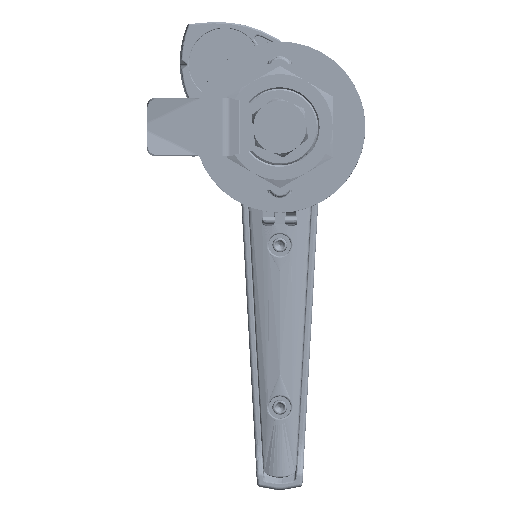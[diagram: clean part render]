
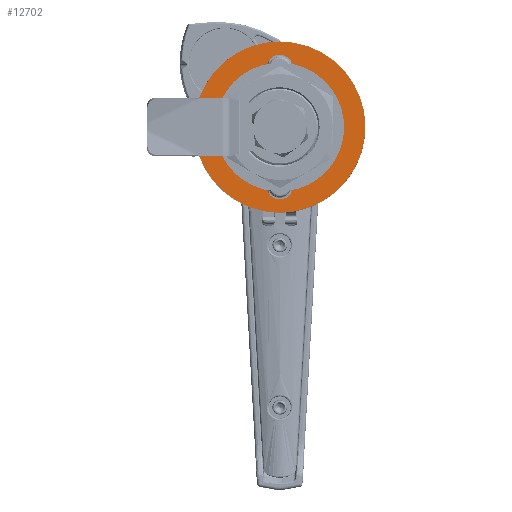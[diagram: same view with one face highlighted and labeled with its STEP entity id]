
A CAD part, front view. The second image highlights one B-rep face of the part: STEP entity #12702.
In plain terms, the highlighted planar face has unit normal (0, -1, 0).
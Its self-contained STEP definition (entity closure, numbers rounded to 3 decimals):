
#3902=FACE_BOUND('',#19801,.T.);
#3903=FACE_BOUND('',#19802,.T.);
#4825=CIRCLE('',#56725,29.);
#4826=CIRCLE('',#56726,4.5);
#4827=CIRCLE('',#56727,13.5);
#4828=CIRCLE('',#56728,4.5);
#4829=CIRCLE('',#56729,13.5);
#12702=ADVANCED_FACE('',(#3902,#3903),#14957,.F.);
#14957=PLANE('',#56730);
#19801=EDGE_LOOP('',(#28213));
#19802=EDGE_LOOP('',(#28214,#28215,#28216,#28217,#28218,#28219,#28220,#28221));
#28213=ORIENTED_EDGE('',*,*,#46429,.F.);
#28214=ORIENTED_EDGE('',*,*,#46430,.T.);
#28215=ORIENTED_EDGE('',*,*,#46431,.T.);
#28216=ORIENTED_EDGE('',*,*,#46432,.T.);
#28217=ORIENTED_EDGE('',*,*,#46433,.T.);
#28218=ORIENTED_EDGE('',*,*,#46434,.T.);
#28219=ORIENTED_EDGE('',*,*,#46435,.T.);
#28220=ORIENTED_EDGE('',*,*,#46436,.T.);
#28221=ORIENTED_EDGE('',*,*,#46437,.T.);
#40156=VERTEX_POINT('',#200730);
#40157=VERTEX_POINT('',#200732);
#40158=VERTEX_POINT('',#200733);
#40159=VERTEX_POINT('',#200735);
#40160=VERTEX_POINT('',#200737);
#40161=VERTEX_POINT('',#200739);
#40162=VERTEX_POINT('',#200741);
#40163=VERTEX_POINT('',#200743);
#40164=VERTEX_POINT('',#200745);
#46429=EDGE_CURVE('',#40156,#40156,#4825,.T.);
#46430=EDGE_CURVE('',#40157,#40158,#4826,.T.);
#46431=EDGE_CURVE('',#40158,#40159,#52287,.T.);
#46432=EDGE_CURVE('',#40159,#40160,#4827,.T.);
#46433=EDGE_CURVE('',#40160,#40161,#52288,.T.);
#46434=EDGE_CURVE('',#40161,#40162,#4828,.T.);
#46435=EDGE_CURVE('',#40162,#40163,#52289,.T.);
#46436=EDGE_CURVE('',#40163,#40164,#4829,.T.);
#46437=EDGE_CURVE('',#40164,#40157,#52290,.T.);
#52287=LINE('',#200734,#54361);
#52288=LINE('',#200738,#54362);
#52289=LINE('',#200742,#54363);
#52290=LINE('',#200746,#54364);
#54361=VECTOR('',#62436,1.);
#54362=VECTOR('',#62439,1.);
#54363=VECTOR('',#62442,1.);
#54364=VECTOR('',#62445,1.);
#56725=AXIS2_PLACEMENT_3D('',#200729,#62432,#62433);
#56726=AXIS2_PLACEMENT_3D('',#200731,#62434,#62435);
#56727=AXIS2_PLACEMENT_3D('',#200736,#62437,#62438);
#56728=AXIS2_PLACEMENT_3D('',#200740,#62440,#62441);
#56729=AXIS2_PLACEMENT_3D('',#200744,#62443,#62444);
#56730=AXIS2_PLACEMENT_3D('',#200747,#62446,#62447);
#62432=DIRECTION('',(0.,1.,0.));
#62433=DIRECTION('',(0.,0.,1.));
#62434=DIRECTION('',(0.,1.,0.));
#62435=DIRECTION('',(0.,0.,1.));
#62436=DIRECTION('',(1.,0.,0.));
#62437=DIRECTION('',(0.,1.,0.));
#62438=DIRECTION('',(0.,0.,1.));
#62439=DIRECTION('',(1.,0.,0.));
#62440=DIRECTION('',(0.,1.,0.));
#62441=DIRECTION('',(0.,0.,1.));
#62442=DIRECTION('',(-1.,0.,0.));
#62443=DIRECTION('',(0.,1.,0.));
#62444=DIRECTION('',(0.,0.,1.));
#62445=DIRECTION('',(-1.,0.,0.));
#62446=DIRECTION('',(0.,1.,0.));
#62447=DIRECTION('',(0.,0.,1.));
#200729=CARTESIAN_POINT('',(0.,0.,0.));
#200730=CARTESIAN_POINT('',(0.,0.,29.));
#200731=CARTESIAN_POINT('',(-20.,0.,0.));
#200732=CARTESIAN_POINT('',(-20.,0.,-4.5));
#200733=CARTESIAN_POINT('',(-20.,0.,4.5));
#200734=CARTESIAN_POINT('',(-20.,0.,4.5));
#200735=CARTESIAN_POINT('',(-12.728,0.,4.5));
#200736=CARTESIAN_POINT('',(0.,0.,0.));
#200737=CARTESIAN_POINT('',(12.728,0.,4.5));
#200738=CARTESIAN_POINT('',(12.728,0.,4.5));
#200739=CARTESIAN_POINT('',(20.,0.,4.5));
#200740=CARTESIAN_POINT('',(20.,0.,0.));
#200741=CARTESIAN_POINT('',(20.,0.,-4.5));
#200742=CARTESIAN_POINT('',(20.,0.,-4.5));
#200743=CARTESIAN_POINT('',(12.728,0.,-4.5));
#200744=CARTESIAN_POINT('',(0.,0.,0.));
#200745=CARTESIAN_POINT('',(-12.728,0.,-4.5));
#200746=CARTESIAN_POINT('',(-20.,0.,-4.5));
#200747=CARTESIAN_POINT('',(0.,0.,0.));
